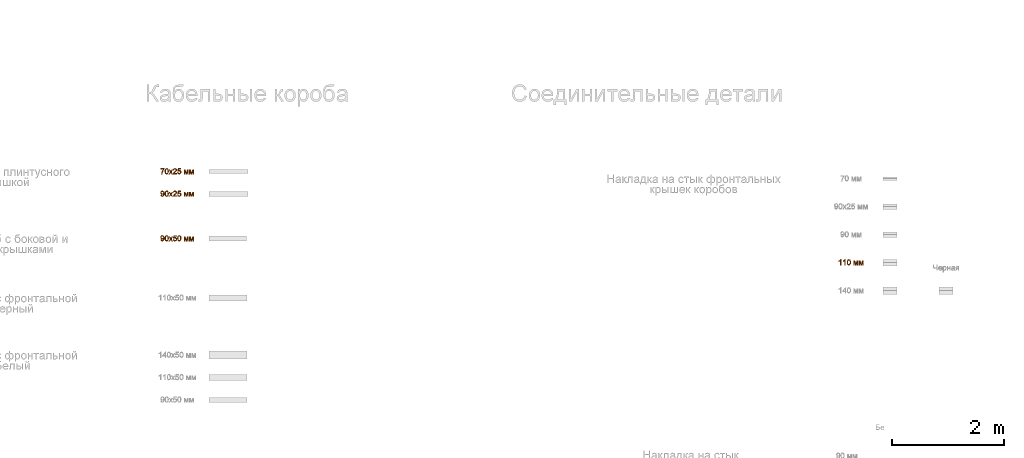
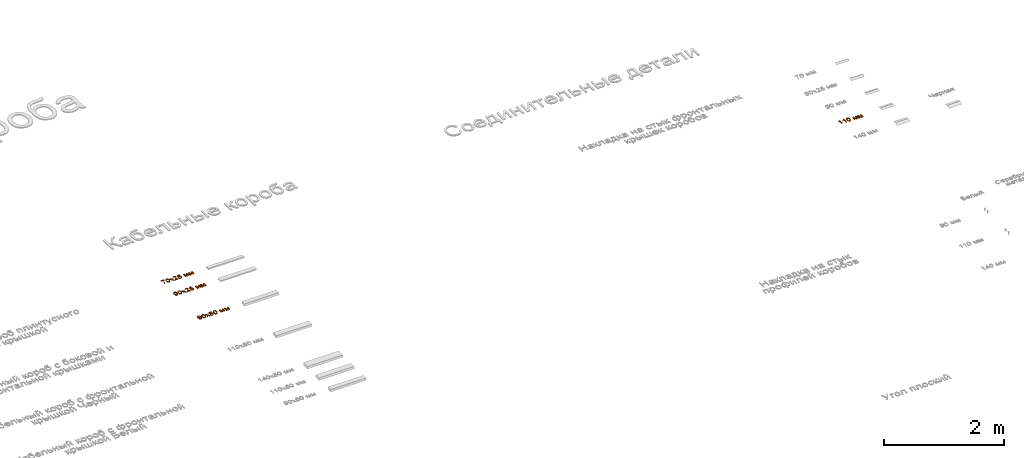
# One storey, part 49 of 87: 4 proxies.
"""IFC2X3 building model written with IfcOpenShell, lengths in millimetres."""

from ifc_helpers import new_model, entity, si_unit, converted_unit, derived_unit, direction, frame, origin, place, context, subcontext, project, spatial, polyline, outline, extrude, element, save


model = new_model("IFC2X3")

# Units and contexts
model_context = context("Model", 3, precision=0.01, world=origin(), true_north=direction((6.12303176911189e-17, 1.0)))
body_context = subcontext(model_context, "Body", "Model", "MODEL_VIEW")
ifc_project = project(units=[si_unit("LENGTHUNIT", "METRE", prefix="MILLI"), si_unit("AREAUNIT", "SQUARE_METRE"), si_unit("VOLUMEUNIT", "CUBIC_METRE"), converted_unit("PLANEANGLEUNIT", "DEGREE", entity("IfcRatioMeasure", 0.0174532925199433), si_unit("PLANEANGLEUNIT", "RADIAN"), dimensions=[0, 0, 0, 0, 0, 0, 0]), si_unit("MASSUNIT", "GRAM", prefix="KILO"), derived_unit("MASSDENSITYUNIT", [(si_unit("MASSUNIT", "GRAM", prefix="KILO"), 1), (si_unit("LENGTHUNIT", "METRE"), -3)]), si_unit("TIMEUNIT", "SECOND"), si_unit("FREQUENCYUNIT", "HERTZ"), si_unit("THERMODYNAMICTEMPERATUREUNIT", "DEGREE_CELSIUS"), derived_unit("THERMALTRANSMITTANCEUNIT", [(si_unit("MASSUNIT", "GRAM", prefix="KILO"), 1), (si_unit("THERMODYNAMICTEMPERATUREUNIT", "KELVIN"), -1), (si_unit("TIMEUNIT", "SECOND"), -3)]), derived_unit("VOLUMETRICFLOWRATEUNIT", [(si_unit("LENGTHUNIT", "METRE"), 3), (si_unit("TIMEUNIT", "SECOND"), -1)]), si_unit("ELECTRICCURRENTUNIT", "AMPERE"), si_unit("ELECTRICVOLTAGEUNIT", "VOLT"), si_unit("POWERUNIT", "WATT"), si_unit("FORCEUNIT", "NEWTON", prefix="KILO"), si_unit("ILLUMINANCEUNIT", "LUX"), si_unit("LUMINOUSFLUXUNIT", "LUMEN"), si_unit("LUMINOUSINTENSITYUNIT", "CANDELA"), derived_unit("USERDEFINED", [(si_unit("MASSUNIT", "GRAM", prefix="KILO"), -1), (si_unit("LENGTHUNIT", "METRE"), -2), (si_unit("TIMEUNIT", "SECOND"), 3), (si_unit("LUMINOUSFLUXUNIT", "LUMEN"), 1)]), derived_unit("LINEARVELOCITYUNIT", [(si_unit("LENGTHUNIT", "METRE"), 1), (si_unit("TIMEUNIT", "SECOND"), -1)]), si_unit("PRESSUREUNIT", "PASCAL"), derived_unit("USERDEFINED", [(si_unit("LENGTHUNIT", "METRE"), -2), (si_unit("MASSUNIT", "GRAM", prefix="KILO"), 1), (si_unit("TIMEUNIT", "SECOND"), -2)])], contexts=[model_context])

# Site, building, storey
site_placement = place(None, origin())
site = spatial("IfcSite", under=ifc_project, at=site_placement, Name="Default", CompositionType="ELEMENT")
building_placement = place(site_placement, origin())
building = spatial("IfcBuilding", under=site, at=building_placement, Name="Наименование здания", CompositionType="ELEMENT")
storey_placement = place(building_placement, origin())
storey = spatial("IfcBuildingStorey", under=building, at=storey_placement, Name="Этаж 01", CompositionType="ELEMENT", Elevation=0.0)

# Proxies
proxy_1_placement = place(storey_placement, origin())
element("IfcBuildingElementProxy", 1, at=proxy_1_placement, inside=storey, Name="Текст модели:100 мм Arial", ObjectType="Текст модели:100 мм Arial", context=body_context, shape_type="SweptSolid", body=[
    extrude(outline(polyline([(-63.8793021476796, -16.9184842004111), (36.5770080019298, -16.9184842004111), (36.5770080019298, -8.82508030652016), (23.2106288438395, 2.34626961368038), (11.4629304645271, 20.7526321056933), (-0.407395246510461, 20.7526321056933), (5.93243780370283, 7.53340574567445), (14.4059864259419, -4.3614454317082), (-63.8793021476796, -4.3614454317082), (-63.8793021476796, -16.9184842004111)])), frame((12273.7741888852, 3040.84187918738, 0.0), z_axis=(0.0, 0.0, 1.0), x_axis=(0.0, 1.0, 0.0)), (0.0, 0.0, 1.0), 20.0),
    extrude(outline(polyline([(-63.8793021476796, -16.9184842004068), (36.5770080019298, -16.9184842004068), (36.5770080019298, -8.82508030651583), (23.2106288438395, 2.34626961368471), (11.4629304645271, 20.7526321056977), (-0.407395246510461, 20.7526321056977), (5.93243780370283, 7.53340574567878), (14.4059864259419, -4.36144543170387), (-63.8793021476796, -4.36144543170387), (-63.8793021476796, -16.9184842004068)])), frame((12350.6860513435, 3040.84187918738, 0.0), z_axis=(0.0, 0.0, 1.0), x_axis=(0.0, 1.0, 0.0)), (0.0, 0.0, 1.0), 20.0),
    extrude(outline(polyline([(-7.02884310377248, -33.3490673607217), (17.532380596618, -33.3490673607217), (35.1984171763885, -27.6137612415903), (43.3439841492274, -18.4876517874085), (47.0516941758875, -5.75150665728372), (46.7162020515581, 4.4863820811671), (43.4465778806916, 13.0955287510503), (27.9444305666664, 25.6659118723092), (-0.314338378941, 32.2325535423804), (-24.0296505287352, 32.367828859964), (-39.4143020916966, 28.026088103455), (-49.7293680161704, 18.9002174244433), (-54.4436715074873, 4.63998875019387), (-50.8676582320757, -14.1301059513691), (-35.4058547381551, -26.7333390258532), (-7.02884310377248, -33.3490673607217)]), holes=[polyline([(-5.77428774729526, -20.8548320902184), (-25.0157644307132, -17.3562860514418), (-36.7257089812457, -11.5717922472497), (-41.0962588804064, -4.77599682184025), (-41.966921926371, 3.21464792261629), (-39.2244253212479, 11.2791292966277), (-32.8654063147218, 17.2229259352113), (-20.9698370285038, 20.2947501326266), (-1.61768958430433, 19.7433141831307), (17.8514140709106, 16.2707701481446), (28.7803640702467, 10.7141596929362), (33.5546988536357, 3.61815959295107), (34.5599568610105, -4.47255337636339), (31.9421230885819, -12.1923199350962), (25.8471825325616, -18.1754808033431), (14.0250679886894, -21.4027476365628), (-5.77428774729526, -20.8548320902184)])]), frame((12431.319040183, 3022.78575398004, 0.0), z_axis=(0.0, 0.0, 1.0), x_axis=(0.1018515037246, -0.994799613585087, 0.0)), (0.0, 0.0, 1.0), 20.0),
    extrude(outline(polyline([(-40.58398707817, -38.4502715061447), (33.1886156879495, -38.4502715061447), (33.1886156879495, -25.893232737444), (-29.0570178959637, -25.893232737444), (33.1886156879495, -8.6273044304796), (33.1886156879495, 7.85380895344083), (-26.2120637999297, 25.9045521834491), (33.1886156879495, 25.9045521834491), (33.1886156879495, 38.4615909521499), (-40.58398707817, 38.4615909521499), (-40.58398707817, 17.7620973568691), (18.4733358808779, -0.190544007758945), (-40.58398707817, -16.8433356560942), (-40.58398707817, -38.4502715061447)])), frame((12555.1696424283, 3010.15119272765, 0.0), z_axis=(0.0, 0.0, 1.0), x_axis=(0.0, -1.0, 0.0)), (0.0, 0.0, 1.0), 20.0),
    extrude(outline(polyline([(-40.58398707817, -38.4502715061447), (33.1886156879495, -38.4502715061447), (33.1886156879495, -25.893232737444), (-29.0570178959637, -25.893232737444), (33.1886156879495, -8.6273044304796), (33.1886156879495, 7.85380895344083), (-26.2120637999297, 25.9045521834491), (33.1886156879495, 25.9045521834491), (33.1886156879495, 38.4615909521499), (-40.58398707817, 38.4615909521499), (-40.58398707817, 17.7620973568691), (18.4733358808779, -0.190544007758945), (-40.58398707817, -16.8433356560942), (-40.58398707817, -38.4502715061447)])), frame((12650.9170630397, 3010.15119272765, 0.0), z_axis=(0.0, 0.0, 1.0), x_axis=(0.0, -1.0, 0.0)), (0.0, 0.0, 1.0), 20.0),
])
proxy_2_placement = place(storey_placement, origin())
element("IfcBuildingElementProxy", 2, at=proxy_2_placement, inside=storey, Name="Текст модели:100 мм Arial", ObjectType="Текст модели:100 мм Arial", context=body_context, shape_type="SweptSolid", body=[
    extrude(outline(polyline([(-33.1249866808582, -28.4339338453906), (-33.1249866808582, -40.9909726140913), (32.799466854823, -40.9909726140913), (32.799466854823, -30.8374295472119), (14.0987987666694, -3.82262836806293), (-0.211810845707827, 30.5988636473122), (-4.87164945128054, 57.8957076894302), (-17.4286882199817, 57.8957076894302), (-12.4377558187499, 29.5687940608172), (1.25971713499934, -2.44920225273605), (20.2424280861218, -28.4339338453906), (-33.1249866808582, -28.4339338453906)])), frame((171.358484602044, 4661.1821824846, 0.0), z_axis=(0.0, 0.0, -1.0), x_axis=(1.0, 0.0, 0.0)), (0.0, 0.0, -1.0), 20.0),
    extrude(outline(polyline([(-7.02884310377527, -33.3490673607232), (17.5323805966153, -33.3490673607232), (35.198417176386, -27.6137612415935), (43.3439841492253, -18.4876517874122), (47.0516941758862, -5.75150665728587), (46.7162020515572, 4.48638208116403), (43.4465778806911, 13.095528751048), (27.9444305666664, 25.6659118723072), (-0.314338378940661, 32.2325535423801), (-24.0296505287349, 32.3678288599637), (-39.4143020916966, 28.0260881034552), (-49.7293680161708, 18.9002174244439), (-54.4436715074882, 4.6399887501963), (-50.8676582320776, -14.130105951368), (-35.4058547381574, -26.7333390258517), (-7.02884310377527, -33.3490673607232)]), holes=[polyline([(-5.77428774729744, -20.8548320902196), (-25.0157644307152, -17.3562860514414), (-36.7257089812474, -11.5717922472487), (-41.0962588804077, -4.77599682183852), (-41.9669219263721, 3.21464792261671), (-39.2244253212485, 11.2791292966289), (-32.8654063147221, 17.2229259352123), (-20.9698370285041, 20.2947501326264), (-1.61768958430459, 19.7433141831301), (17.8514140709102, 16.2707701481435), (28.780364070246, 10.7141596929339), (33.5546988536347, 3.61815959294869), (34.5599568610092, -4.47255337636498), (31.9421230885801, -12.192319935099), (25.8471825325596, -18.1754808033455), (14.0250679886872, -21.4027476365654), (-5.77428774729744, -20.8548320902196)])]), frame((249.036897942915, 4649.1096517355, 0.0), z_axis=(0.0, 0.0, 1.0), x_axis=(0.101851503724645, -0.994799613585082, 0.0)), (0.0, 0.0, 1.0), 20.0),
    extrude(outline(polyline([(-34.5302215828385, -38.4265006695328), (-19.4225343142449, -38.4265006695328), (-0.341721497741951, -12.0616243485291), (2.47870713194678, -16.1328517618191), (17.8561745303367, -38.4265006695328), (32.9638617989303, -38.4265006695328), (7.40832586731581, -1.34399555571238), (33.9448804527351, 35.3461020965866), (18.8371931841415, 35.3461020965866), (4.95577923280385, 16.1671874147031), (0.0261604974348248, 9.34910777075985), (-5.66374769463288, 17.6877663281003), (-17.8529044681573, 35.3461020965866), (-32.9605917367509, 35.3461020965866), (-7.69936140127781, -1.34399555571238), (-34.5302215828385, -38.4265006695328)])), frame((321.878554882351, 4641.7129754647, 0.0)), (0.0, 0.0, 1.0), 20.0),
    extrude(outline(polyline([(-32.3858783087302, -45.1669477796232), (-32.3858783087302, -57.7239865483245), (33.538575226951, -57.7239865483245), (32.1896745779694, -49.0664969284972), (24.5622545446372, -35.7369059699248), (8.84143061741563, -21.1810416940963), (-12.83908163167, -0.260818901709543), (-18.2592096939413, 13.9639515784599), (-13.1456499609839, 25.4786580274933), (0.208466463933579, 30.1752848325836), (14.1266686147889, 25.5890226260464), (19.4119066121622, 12.9093565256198), (31.9689453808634, 14.4789863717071), (28.9247218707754, 26.6252235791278), (22.3426998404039, 35.4973110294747), (12.5662358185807, 40.9235704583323), (-0.0613136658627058, 42.7323236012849), (-12.7808336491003, 40.721235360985), (-22.5389035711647, 34.6879706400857), (-28.7469122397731, 25.6748617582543), (-30.8162484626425, 14.7242410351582), (-28.5844310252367, 2.81712712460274), (-21.165477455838, -9.49465698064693), (-3.17604789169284, -26.6992716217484), (11.2694517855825, -38.7780637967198), (16.9348345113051, -45.1669477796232), (-32.3858783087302, -45.1669477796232)])), frame((394.659511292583, 4661.01046134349, 0.0), z_axis=(0.0, 0.0, -1.0), x_axis=(-1.0, 0.0, 0.0)), (0.0, 0.0, -1.0), 20.0),
    extrude(outline(polyline([(3.81439562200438, -37.2548959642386), (15.7323946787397, -37.2548959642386), (26.158813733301, -33.0579698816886), (34.2921694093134, -25.0537205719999), (39.3309783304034, -13.6317508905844), (40.2219288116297, 1.43409098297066), (34.3991305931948, 14.6815107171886), (25.5350217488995, 23.1481891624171), (13.9054384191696, 28.2770976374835), (0.912111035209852, 29.4702838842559), (-10.7159258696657, 25.7768606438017), (-19.7427074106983, 18.0989984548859), (-24.9322687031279, 7.33886785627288), (-25.5937300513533, -2.21124798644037), (-22.6370240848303, -12.2793380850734), (-47.9924930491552, 0.0204883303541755), (-38.0977082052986, 37.2324069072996), (-50.2330599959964, 40.4592412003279), (-62.7370428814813, -6.56524698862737), (-15.5021967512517, -30.4943712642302), (-10.7584434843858, -18.7623737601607), (-14.4216298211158, -10.4922324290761), (-13.6981616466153, 0.722667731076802), (-9.98738154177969, 9.35727561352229), (-4.325533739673, 14.687885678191), (11.4370636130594, 15.9400687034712), (19.7481682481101, 12.2772427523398), (25.4355726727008, 6.4063224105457), (28.0665145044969, -1.27212018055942), (27.2082313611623, -10.3575128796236), (19.6530635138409, -21.9256319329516), (5.52431094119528, -24.7161898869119), (3.81439562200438, -37.2548959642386)])), frame((474.626039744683, 4643.23002884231, 0.0), z_axis=(0.0, 0.0, 1.0), x_axis=(0.256974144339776, -0.966418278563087, 0.0)), (0.0, 0.0, 1.0), 20.0),
    extrude(outline(polyline([(-40.5839870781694, -38.4502715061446), (33.18861568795, -38.4502715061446), (33.18861568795, -25.8932327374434), (-29.0570178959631, -25.8932327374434), (33.18861568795, -8.62730443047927), (33.18861568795, 7.85380895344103), (-26.2120637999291, 25.9045521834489), (33.18861568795, 25.9045521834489), (33.18861568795, 38.4615909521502), (-40.5839870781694, 38.4615909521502), (-40.5839870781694, 17.7620973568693), (18.4733358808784, -0.1905440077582), (-40.5839870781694, -16.8433356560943), (-40.5839870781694, -38.4502715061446)])), frame((597.34456817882, 4636.47509048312, 0.0), z_axis=(0.0, 0.0, 1.0), x_axis=(0.0, -1.0, 0.0)), (0.0, 0.0, 1.0), 20.0),
    extrude(outline(polyline([(-40.5839870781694, -38.4502715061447), (33.18861568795, -38.4502715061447), (33.18861568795, -25.8932327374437), (-29.0570178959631, -25.8932327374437), (33.18861568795, -8.62730443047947), (33.18861568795, 7.85380895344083), (-26.2120637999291, 25.9045521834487), (33.18861568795, 25.9045521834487), (33.18861568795, 38.4615909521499), (-40.5839870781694, 38.4615909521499), (-40.5839870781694, 17.7620973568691), (18.4733358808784, -0.190544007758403), (-40.5839870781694, -16.8433356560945), (-40.5839870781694, -38.4502715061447)])), frame((693.091988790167, 4636.47509048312, 0.0), z_axis=(0.0, 0.0, 1.0), x_axis=(0.0, -1.0, 0.0)), (0.0, 0.0, 1.0), 20.0),
])
proxy_3_placement = place(storey_placement, origin())
element("IfcBuildingElementProxy", 3, at=proxy_3_placement, inside=storey, Name="Текст модели:100 мм Arial", ObjectType="Текст модели:100 мм Arial", context=body_context, shape_type="SweptSolid", body=[
    extrude(outline(polyline([(5.58296908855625, -31.7859506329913), (17.2387167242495, -31.7859506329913), (26.9216142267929, -28.173991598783), (34.2072820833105, -21.2554963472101), (38.6713407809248, -11.3358876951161), (39.9245387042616, -0.903731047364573), (37.945028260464, 8.92661895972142), (32.7793953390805, 17.8190246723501), (24.4742258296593, 25.4373484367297), (-3.90517077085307, 37.3659164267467), (-32.1440557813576, 40.5619140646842), (-49.7769073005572, 32.5319597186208), (-59.4683269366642, 16.6032994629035), (-60.44998899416, 4.02951589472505), (-56.4016296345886, -7.53444362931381), (-47.8362588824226, -16.8026666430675), (-35.2668867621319, -22.4892406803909), (-21.9841856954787, -23.8222776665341), (-10.3310965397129, -20.2832716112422), (-1.40106329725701, -12.8047998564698), (3.71247002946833, -2.31943974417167), (3.73902096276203, 11.9281903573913), (-2.85997612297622, 24.08839846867), (-0.471643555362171, 23.5260231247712), (13.1334133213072, 18.0099957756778), (22.6158894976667, 11.222494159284), (27.007982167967, 2.91452909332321), (26.692406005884, -7.52395807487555), (20.3410079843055, -16.8945474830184), (7.30988926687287, -19.249575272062), (5.58296908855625, -31.7859506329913)]), holes=[polyline([(-21.7672208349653, 29.1433710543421), (-13.9803799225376, 25.592244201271), (-8.91107638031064, 19.8291378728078), (-7.47464573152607, 4.4541510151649), (-10.9717321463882, -3.43916536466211), (-16.5473789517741, -8.73312215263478), (-23.5758136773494, -11.1761402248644), (-31.4312638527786, -10.5166404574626), (-39.4119601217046, -6.85973803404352), (-44.9206699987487, -0.817312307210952), (-47.5297596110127, 6.83624740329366), (-46.8115950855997, 15.3265517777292), (-43.3781823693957, 22.7799280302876), (-37.7148363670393, 27.7965691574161), (-30.3387761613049, 30.0324064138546), (-21.7672208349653, 29.1433710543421)])]), frame((169.06854924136, 4242.00390880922, 0.0), z_axis=(0.0, 0.0, 1.0), x_axis=(0.258284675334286, -0.966068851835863, 0.0)), (0.0, 0.0, 1.0), 20.0),
    extrude(outline(polyline([(-7.02884310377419, -33.3490673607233), (17.5323805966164, -33.3490673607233), (35.1984171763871, -27.6137612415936), (43.3439841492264, -18.4876517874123), (47.0516941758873, -5.75150665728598), (46.7162020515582, 4.48638208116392), (43.4465778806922, 13.0955287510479), (27.9444305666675, 25.6659118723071), (-0.314338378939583, 32.23255354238), (-24.0296505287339, 32.3678288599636), (-39.4143020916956, 28.026088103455), (-49.7293680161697, 18.9002174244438), (-54.4436715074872, 4.63998875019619), (-50.8676582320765, -14.1301059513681), (-35.4058547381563, -26.7333390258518), (-7.02884310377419, -33.3490673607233)]), holes=[polyline([(-5.77428774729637, -20.8548320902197), (-25.0157644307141, -17.3562860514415), (-36.7257089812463, -11.5717922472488), (-41.0962588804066, -4.77599682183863), (-41.966921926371, 3.2146479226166), (-39.2244253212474, 11.2791292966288), (-32.865406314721, 17.2229259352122), (-20.969837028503, 20.2947501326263), (-1.61768958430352, 19.74331418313), (17.8514140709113, 16.2707701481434), (28.7803640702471, 10.7141596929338), (33.5546988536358, 3.61815959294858), (34.5599568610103, -4.47255337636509), (31.9421230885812, -12.1923199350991), (25.8471825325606, -18.1754808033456), (14.0250679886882, -21.4027476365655), (-5.77428774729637, -20.8548320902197)])]), frame((249.036897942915, 4249.1096517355, 0.0), z_axis=(0.0, 0.0, 1.0), x_axis=(0.101851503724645, -0.994799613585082, 0.0)), (0.0, 0.0, 1.0), 20.0),
    extrude(outline(polyline([(-34.5302215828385, -38.4265006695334), (-19.4225343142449, -38.4265006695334), (-0.341721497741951, -12.0616243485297), (2.47870713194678, -16.1328517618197), (17.8561745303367, -38.4265006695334), (32.9638617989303, -38.4265006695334), (7.40832586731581, -1.34399555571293), (33.9448804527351, 35.3461020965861), (18.8371931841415, 35.3461020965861), (4.95577923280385, 16.1671874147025), (0.0261604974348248, 9.34910777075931), (-5.66374769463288, 17.6877663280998), (-17.8529044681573, 35.3461020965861), (-32.9605917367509, 35.3461020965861), (-7.69936140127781, -1.34399555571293), (-34.5302215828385, -38.4265006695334)])), frame((321.878554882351, 4241.7129754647, 0.0)), (0.0, 0.0, 1.0), 20.0),
    extrude(outline(polyline([(-32.3858783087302, -45.1669477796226), (-32.3858783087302, -57.7239865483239), (33.538575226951, -57.7239865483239), (32.1896745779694, -49.0664969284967), (24.5622545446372, -35.7369059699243), (8.84143061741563, -21.1810416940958), (-12.83908163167, -0.260818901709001), (-18.2592096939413, 13.9639515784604), (-13.1456499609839, 25.4786580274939), (0.208466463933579, 30.1752848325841), (14.1266686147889, 25.5890226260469), (19.4119066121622, 12.9093565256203), (31.9689453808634, 14.4789863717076), (28.9247218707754, 26.6252235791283), (22.3426998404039, 35.4973110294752), (12.5662358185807, 40.9235704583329), (-0.0613136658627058, 42.7323236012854), (-12.7808336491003, 40.7212353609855), (-22.5389035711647, 34.6879706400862), (-28.7469122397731, 25.6748617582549), (-30.8162484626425, 14.7242410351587), (-28.5844310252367, 2.81712712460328), (-21.165477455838, -9.49465698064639), (-3.17604789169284, -26.6992716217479), (11.2694517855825, -38.7780637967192), (16.9348345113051, -45.1669477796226), (-32.3858783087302, -45.1669477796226)])), frame((394.659511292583, 4261.01046134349, 0.0), z_axis=(0.0, 0.0, -1.0), x_axis=(-1.0, 0.0, 0.0)), (0.0, 0.0, -1.0), 20.0),
    extrude(outline(polyline([(3.81439562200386, -37.2548959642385), (15.7323946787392, -37.2548959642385), (26.1588137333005, -33.0579698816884), (34.2921694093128, -25.0537205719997), (39.3309783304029, -13.6317508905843), (40.2219288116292, 1.4340909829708), (34.3991305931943, 14.6815107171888), (25.535021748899, 23.1481891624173), (13.9054384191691, 28.2770976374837), (0.912111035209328, 29.470283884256), (-10.7159258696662, 25.7768606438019), (-19.7427074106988, 18.098998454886), (-24.9322687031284, 7.33886785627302), (-25.5937300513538, -2.21124798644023), (-22.6370240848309, -12.2793380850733), (-47.9924930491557, 0.020488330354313), (-38.0977082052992, 37.2324069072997), (-50.2330599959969, 40.459241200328), (-62.7370428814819, -6.56524698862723), (-15.5021967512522, -30.4943712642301), (-10.7584434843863, -18.7623737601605), (-14.4216298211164, -10.4922324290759), (-13.6981616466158, 0.722667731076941), (-9.98738154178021, 9.35727561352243), (-4.32553373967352, 14.6878856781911), (11.4370636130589, 15.9400687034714), (19.7481682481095, 12.2772427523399), (25.4355726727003, 6.40632241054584), (28.0665145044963, -1.27212018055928), (27.2082313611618, -10.3575128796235), (19.6530635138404, -21.9256319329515), (5.52431094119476, -24.7161898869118), (3.81439562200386, -37.2548959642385)])), frame((474.626039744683, 4243.23002884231, 0.0), z_axis=(0.0, 0.0, 1.0), x_axis=(0.256974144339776, -0.966418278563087, 0.0)), (0.0, 0.0, 1.0), 20.0),
    extrude(outline(polyline([(-40.5839870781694, -38.4502715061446), (33.18861568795, -38.4502715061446), (33.18861568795, -25.8932327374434), (-29.0570178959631, -25.8932327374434), (33.18861568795, -8.62730443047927), (33.18861568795, 7.85380895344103), (-26.2120637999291, 25.9045521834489), (33.18861568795, 25.9045521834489), (33.18861568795, 38.4615909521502), (-40.5839870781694, 38.4615909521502), (-40.5839870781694, 17.7620973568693), (18.4733358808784, -0.1905440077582), (-40.5839870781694, -16.8433356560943), (-40.5839870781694, -38.4502715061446)])), frame((597.34456817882, 4236.47509048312, 0.0), z_axis=(0.0, 0.0, 1.0), x_axis=(0.0, -1.0, 0.0)), (0.0, 0.0, 1.0), 20.0),
    extrude(outline(polyline([(-40.5839870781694, -38.4502715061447), (33.18861568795, -38.4502715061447), (33.18861568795, -25.8932327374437), (-29.0570178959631, -25.8932327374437), (33.18861568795, -8.62730443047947), (33.18861568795, 7.85380895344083), (-26.2120637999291, 25.9045521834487), (33.18861568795, 25.9045521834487), (33.18861568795, 38.4615909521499), (-40.5839870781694, 38.4615909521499), (-40.5839870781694, 17.7620973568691), (18.4733358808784, -0.190544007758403), (-40.5839870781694, -16.8433356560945), (-40.5839870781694, -38.4502715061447)])), frame((693.091988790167, 4236.47509048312, 0.0), z_axis=(0.0, 0.0, 1.0), x_axis=(0.0, -1.0, 0.0)), (0.0, 0.0, 1.0), 20.0),
])
proxy_4_placement = place(storey_placement, origin())
element("IfcBuildingElementProxy", 4, at=proxy_4_placement, inside=storey, Name="Текст модели:100 мм Arial", ObjectType="Текст модели:100 мм Arial", context=body_context, shape_type="SweptSolid", body=[
    extrude(outline(polyline([(5.5829690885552, -31.785950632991), (17.2387167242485, -31.785950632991), (26.9216142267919, -28.1739915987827), (34.2072820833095, -21.2554963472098), (38.6713407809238, -11.3358876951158), (39.9245387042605, -0.903731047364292), (37.945028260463, 8.9266189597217), (32.7793953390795, 17.8190246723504), (24.4742258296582, 25.43734843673), (-3.90517077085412, 37.365916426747), (-32.1440557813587, 40.5619140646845), (-49.7769073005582, 32.5319597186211), (-59.4683269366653, 16.6032994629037), (-60.449988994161, 4.02951589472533), (-56.4016296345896, -7.53444362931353), (-47.8362588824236, -16.8026666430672), (-35.2668867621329, -22.4892406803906), (-21.9841856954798, -23.8222776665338), (-10.3310965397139, -20.2832716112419), (-1.40106329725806, -12.8047998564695), (3.71247002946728, -2.31943974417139), (3.73902096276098, 11.9281903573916), (-2.85997612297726, 24.0883984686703), (-0.471643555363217, 23.5260231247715), (13.1334133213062, 18.0099957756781), (22.6158894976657, 11.2224941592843), (27.0079821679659, 2.91452909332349), (26.692406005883, -7.52395807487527), (20.3410079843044, -16.8945474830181), (7.30988926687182, -19.2495752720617), (5.5829690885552, -31.785950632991)]), holes=[polyline([(-21.7672208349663, 29.1433710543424), (-13.9803799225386, 25.5922442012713), (-8.91107638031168, 19.8291378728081), (-7.47464573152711, 4.45415101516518), (-10.9717321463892, -3.43916536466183), (-16.5473789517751, -8.7331221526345), (-23.5758136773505, -11.1761402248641), (-31.4312638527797, -10.5166404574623), (-39.4119601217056, -6.85973803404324), (-44.9206699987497, -0.817312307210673), (-47.5297596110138, 6.83624740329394), (-46.8115950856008, 15.3265517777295), (-43.3781823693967, 22.7799280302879), (-37.7148363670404, 27.7965691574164), (-30.338776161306, 30.0324064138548), (-21.7672208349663, 29.1433710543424)])]), frame((169.068549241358, 3445.4548574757, 0.0), z_axis=(0.0, 0.0, 1.0), x_axis=(0.258284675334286, -0.966068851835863, 0.0)), (0.0, 0.0, 1.0), 20.0),
    extrude(outline(polyline([(-7.02884310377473, -33.3490673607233), (17.5323805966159, -33.3490673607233), (35.1984171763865, -27.6137612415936), (43.3439841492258, -18.4876517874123), (47.0516941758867, -5.75150665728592), (46.7162020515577, 4.48638208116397), (43.4465778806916, 13.0955287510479), (27.9444305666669, 25.6659118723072), (-0.314338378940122, 32.23255354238), (-24.0296505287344, 32.3678288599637), (-39.4143020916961, 28.0260881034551), (-49.7293680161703, 18.9002174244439), (-54.4436715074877, 4.63998875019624), (-50.867658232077, -14.130105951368), (-35.4058547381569, -26.7333390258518), (-7.02884310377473, -33.3490673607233)]), holes=[polyline([(-5.7742877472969, -20.8548320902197), (-25.0157644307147, -17.3562860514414), (-36.7257089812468, -11.5717922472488), (-41.0962588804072, -4.77599682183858), (-41.9669219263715, 3.21464792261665), (-39.224425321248, 11.2791292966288), (-32.8654063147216, 17.2229259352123), (-20.9698370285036, 20.2947501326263), (-1.61768958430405, 19.74331418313), (17.8514140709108, 16.2707701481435), (28.7803640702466, 10.7141596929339), (33.5546988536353, 3.61815959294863), (34.5599568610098, -4.47255337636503), (31.9421230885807, -12.1923199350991), (25.8471825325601, -18.1754808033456), (14.0250679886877, -21.4027476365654), (-5.7742877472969, -20.8548320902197)])]), frame((249.036897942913, 3452.56060040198, 0.0), z_axis=(0.0, 0.0, 1.0), x_axis=(0.101851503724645, -0.994799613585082, 0.0)), (0.0, 0.0, 1.0), 20.0),
    extrude(outline(polyline([(-34.5302215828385, -38.4265006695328), (-19.4225343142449, -38.4265006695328), (-0.341721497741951, -12.0616243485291), (2.47870713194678, -16.1328517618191), (17.8561745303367, -38.4265006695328), (32.9638617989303, -38.4265006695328), (7.40832586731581, -1.34399555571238), (33.9448804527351, 35.3461020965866), (18.8371931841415, 35.3461020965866), (4.95577923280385, 16.1671874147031), (0.0261604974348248, 9.34910777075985), (-5.66374769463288, 17.6877663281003), (-17.8529044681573, 35.3461020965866), (-32.9605917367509, 35.3461020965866), (-7.69936140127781, -1.34399555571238), (-34.5302215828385, -38.4265006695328)])), frame((321.878554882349, 3445.16392413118, 0.0)), (0.0, 0.0, 1.0), 20.0),
    extrude(outline(polyline([(3.81439562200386, -37.2548959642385), (15.7323946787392, -37.2548959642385), (26.1588137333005, -33.0579698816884), (34.2921694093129, -25.0537205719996), (39.3309783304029, -13.6317508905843), (40.2219288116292, 1.43409098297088), (34.3991305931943, 14.6815107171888), (25.535021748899, 23.1481891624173), (13.9054384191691, 28.2770976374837), (0.912111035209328, 29.470283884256), (-10.7159258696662, 25.7768606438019), (-19.7427074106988, 18.0989984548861), (-24.9322687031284, 7.338867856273), (-25.5937300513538, -2.21124798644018), (-22.6370240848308, -12.2793380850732), (-47.9924930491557, 0.0204883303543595), (-38.0977082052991, 37.2324069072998), (-50.2330599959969, 40.4592412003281), (-62.7370428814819, -6.56524698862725), (-15.5021967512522, -30.4943712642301), (-10.7584434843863, -18.7623737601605), (-14.4216298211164, -10.4922324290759), (-13.6981616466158, 0.722667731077), (-9.98738154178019, 9.35727561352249), (-4.32553373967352, 14.6878856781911), (11.4370636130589, 15.9400687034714), (19.7481682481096, 12.2772427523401), (25.4355726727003, 6.40632241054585), (28.0665145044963, -1.27212018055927), (27.2082313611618, -10.3575128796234), (19.6530635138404, -21.9256319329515), (5.52431094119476, -24.7161898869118), (3.81439562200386, -37.2548959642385)])), frame((397.714177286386, 3446.68097750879, 0.0), z_axis=(0.0, 0.0, 1.0), x_axis=(0.256974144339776, -0.966418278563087, 0.0)), (0.0, 0.0, 1.0), 20.0),
    extrude(outline(polyline([(-7.02884310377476, -33.3490673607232), (17.5323805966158, -33.3490673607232), (35.1984171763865, -27.6137612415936), (43.3439841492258, -18.4876517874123), (47.0516941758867, -5.75150665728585), (46.7162020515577, 4.48638208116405), (43.4465778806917, 13.095528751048), (27.944430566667, 25.6659118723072), (-0.314338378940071, 32.2325535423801), (-24.0296505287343, 32.3678288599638), (-39.414302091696, 28.0260881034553), (-49.7293680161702, 18.9002174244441), (-54.4436715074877, 4.63998875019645), (-50.867658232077, -14.1301059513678), (-35.4058547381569, -26.7333390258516), (-7.02884310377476, -33.3490673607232)]), holes=[polyline([(-5.77428774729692, -20.8548320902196), (-25.0157644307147, -17.3562860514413), (-36.7257089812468, -11.5717922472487), (-41.0962588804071, -4.77599682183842), (-41.9669219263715, 3.2146479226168), (-39.2244253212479, 11.279129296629), (-32.8654063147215, 17.2229259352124), (-20.9698370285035, 20.2947501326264), (-1.61768958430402, 19.7433141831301), (17.8514140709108, 16.2707701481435), (28.7803640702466, 10.714159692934), (33.5546988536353, 3.61815959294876), (34.5599568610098, -4.47255337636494), (31.9421230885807, -12.192319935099), (25.8471825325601, -18.1754808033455), (14.0250679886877, -21.4027476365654), (-5.77428774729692, -20.8548320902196)])]), frame((473.493965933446, 3452.56060040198, 0.0), z_axis=(0.0, 0.0, 1.0), x_axis=(0.101851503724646, -0.994799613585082, 0.0)), (0.0, 0.0, 1.0), 20.0),
    extrude(outline(polyline([(-40.58398707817, -38.4502715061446), (33.1886156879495, -38.4502715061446), (33.1886156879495, -25.8932327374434), (-29.0570178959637, -25.8932327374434), (33.1886156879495, -8.62730443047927), (33.1886156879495, 7.85380895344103), (-26.2120637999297, 25.9045521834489), (33.1886156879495, 25.9045521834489), (33.1886156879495, 38.4615909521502), (-40.58398707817, 38.4615909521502), (-40.58398707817, 17.7620973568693), (18.4733358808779, -0.1905440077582), (-40.58398707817, -16.8433356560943), (-40.58398707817, -38.4502715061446)])), frame((597.344568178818, 3439.9260391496, 0.0), z_axis=(0.0, 0.0, 1.0), x_axis=(0.0, -1.0, 0.0)), (0.0, 0.0, 1.0), 20.0),
    extrude(outline(polyline([(-40.58398707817, -38.4502715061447), (33.1886156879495, -38.4502715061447), (33.1886156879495, -25.8932327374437), (-29.0570178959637, -25.8932327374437), (33.1886156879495, -8.62730443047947), (33.1886156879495, 7.85380895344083), (-26.2120637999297, 25.9045521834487), (33.1886156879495, 25.9045521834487), (33.1886156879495, 38.4615909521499), (-40.58398707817, 38.4615909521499), (-40.58398707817, 17.7620973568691), (18.4733358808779, -0.190544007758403), (-40.58398707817, -16.8433356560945), (-40.58398707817, -38.4502715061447)])), frame((693.091988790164, 3439.9260391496, 0.0), z_axis=(0.0, 0.0, 1.0), x_axis=(0.0, -1.0, 0.0)), (0.0, 0.0, 1.0), 20.0),
])

save(model, "model.ifc")
